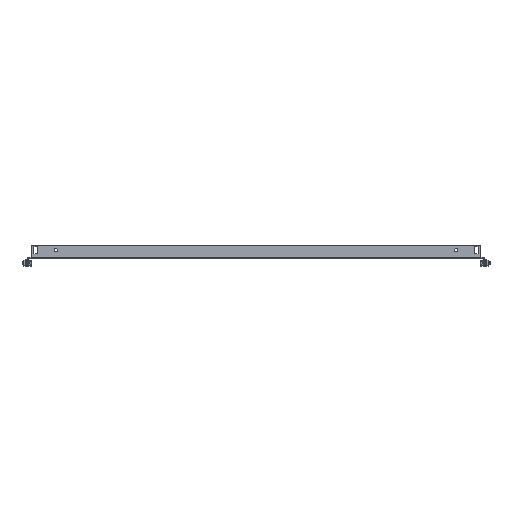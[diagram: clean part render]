
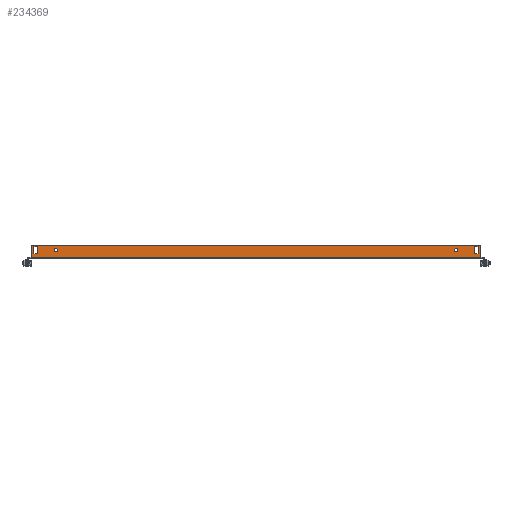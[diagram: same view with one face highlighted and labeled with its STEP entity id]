
A CAD part, front view. The second image highlights one B-rep face of the part: STEP entity #234369.
In plain terms, the highlighted planar face has unit normal (0, -1, 0).
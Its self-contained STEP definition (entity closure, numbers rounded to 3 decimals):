
#216310 = VERTEX_POINT('',#216311);
#216311 = CARTESIAN_POINT('',(442.,-484.5,0.));
#216317 = EDGE_CURVE('',#216318,#216310,#216320,.T.);
#216318 = VERTEX_POINT('',#216319);
#216319 = CARTESIAN_POINT('',(-442.,-484.5,0.));
#216320 = LINE('',#216321,#216322);
#216321 = CARTESIAN_POINT('',(-442.,-484.5,0.));
#216322 = VECTOR('',#216323,1.);
#216323 = DIRECTION('',(1.,-0.,-0.));
#234248 = VERTEX_POINT('',#234249);
#234249 = CARTESIAN_POINT('',(-442.,-484.5,2.6));
#234264 = EDGE_CURVE('',#234248,#216318,#234265,.T.);
#234265 = LINE('',#234266,#234267);
#234266 = CARTESIAN_POINT('',(-442.,-484.5,2.6));
#234267 = VECTOR('',#234268,1.);
#234268 = DIRECTION('',(0.,0.,-1.));
#234288 = VERTEX_POINT('',#234289);
#234289 = CARTESIAN_POINT('',(442.,-484.5,2.6));
#234295 = EDGE_CURVE('',#234288,#216310,#234296,.T.);
#234296 = LINE('',#234297,#234298);
#234297 = CARTESIAN_POINT('',(442.,-484.5,2.));
#234298 = VECTOR('',#234299,1.);
#234299 = DIRECTION('',(-0.,0.,-1.));
#234321 = VERTEX_POINT('',#234322);
#234322 = CARTESIAN_POINT('',(442.,-484.5,26.));
#234328 = EDGE_CURVE('',#234288,#234321,#234329,.T.);
#234329 = LINE('',#234330,#234331);
#234330 = CARTESIAN_POINT('',(442.,-484.5,26.));
#234331 = VECTOR('',#234332,1.);
#234332 = DIRECTION('',(-0.,0.,1.));
#234343 = EDGE_CURVE('',#234344,#234248,#234346,.T.);
#234344 = VERTEX_POINT('',#234345);
#234345 = CARTESIAN_POINT('',(-442.,-484.5,26.));
#234346 = LINE('',#234347,#234348);
#234347 = CARTESIAN_POINT('',(-442.,-484.5,2.));
#234348 = VECTOR('',#234349,1.);
#234349 = DIRECTION('',(-0.,0.,-1.));
#234369 = ADVANCED_FACE('',(#234370,#234404,#234415,#234426,#234460),
  #234473,.F.);
#234370 = FACE_BOUND('',#234371,.T.);
#234371 = EDGE_LOOP('',(#234372,#234382,#234390,#234398));
#234372 = ORIENTED_EDGE('',*,*,#234373,.F.);
#234373 = EDGE_CURVE('',#234374,#234376,#234378,.T.);
#234374 = VERTEX_POINT('',#234375);
#234375 = CARTESIAN_POINT('',(436.5,-484.5,9.));
#234376 = VERTEX_POINT('',#234377);
#234377 = CARTESIAN_POINT('',(436.5,-484.5,23.));
#234378 = LINE('',#234379,#234380);
#234379 = CARTESIAN_POINT('',(436.5,-484.5,23.));
#234380 = VECTOR('',#234381,1.);
#234381 = DIRECTION('',(-0.,-0.,1.));
#234382 = ORIENTED_EDGE('',*,*,#234383,.F.);
#234383 = EDGE_CURVE('',#234384,#234374,#234386,.T.);
#234384 = VERTEX_POINT('',#234385);
#234385 = CARTESIAN_POINT('',(429.5,-484.5,9.));
#234386 = LINE('',#234387,#234388);
#234387 = CARTESIAN_POINT('',(436.5,-484.5,9.));
#234388 = VECTOR('',#234389,1.);
#234389 = DIRECTION('',(1.,-0.,-0.));
#234390 = ORIENTED_EDGE('',*,*,#234391,.F.);
#234391 = EDGE_CURVE('',#234392,#234384,#234394,.T.);
#234392 = VERTEX_POINT('',#234393);
#234393 = CARTESIAN_POINT('',(429.5,-484.5,23.));
#234394 = LINE('',#234395,#234396);
#234395 = CARTESIAN_POINT('',(429.5,-484.5,9.));
#234396 = VECTOR('',#234397,1.);
#234397 = DIRECTION('',(-0.,-0.,-1.));
#234398 = ORIENTED_EDGE('',*,*,#234399,.F.);
#234399 = EDGE_CURVE('',#234376,#234392,#234400,.T.);
#234400 = LINE('',#234401,#234402);
#234401 = CARTESIAN_POINT('',(429.5,-484.5,23.));
#234402 = VECTOR('',#234403,1.);
#234403 = DIRECTION('',(-1.,-0.,-0.));
#234404 = FACE_BOUND('',#234405,.T.);
#234405 = EDGE_LOOP('',(#234406));
#234406 = ORIENTED_EDGE('',*,*,#234407,.F.);
#234407 = EDGE_CURVE('',#234408,#234408,#234410,.T.);
#234408 = VERTEX_POINT('',#234409);
#234409 = CARTESIAN_POINT('',(393.5,-484.5,19.5));
#234410 = CIRCLE('',#234411,3.5);
#234411 = AXIS2_PLACEMENT_3D('',#234412,#234413,#234414);
#234412 = CARTESIAN_POINT('',(393.5,-484.5,16.));
#234413 = DIRECTION('',(0.,-1.,0.));
#234414 = DIRECTION('',(0.,0.,1.));
#234415 = FACE_BOUND('',#234416,.T.);
#234416 = EDGE_LOOP('',(#234417));
#234417 = ORIENTED_EDGE('',*,*,#234418,.F.);
#234418 = EDGE_CURVE('',#234419,#234419,#234421,.T.);
#234419 = VERTEX_POINT('',#234420);
#234420 = CARTESIAN_POINT('',(-393.5,-484.5,12.5));
#234421 = CIRCLE('',#234422,3.5);
#234422 = AXIS2_PLACEMENT_3D('',#234423,#234424,#234425);
#234423 = CARTESIAN_POINT('',(-393.5,-484.5,16.));
#234424 = DIRECTION('',(0.,-1.,0.));
#234425 = DIRECTION('',(0.,0.,-1.));
#234426 = FACE_BOUND('',#234427,.T.);
#234427 = EDGE_LOOP('',(#234428,#234438,#234446,#234454));
#234428 = ORIENTED_EDGE('',*,*,#234429,.F.);
#234429 = EDGE_CURVE('',#234430,#234432,#234434,.T.);
#234430 = VERTEX_POINT('',#234431);
#234431 = CARTESIAN_POINT('',(-436.5,-484.5,23.));
#234432 = VERTEX_POINT('',#234433);
#234433 = CARTESIAN_POINT('',(-436.5,-484.5,9.));
#234434 = LINE('',#234435,#234436);
#234435 = CARTESIAN_POINT('',(-436.5,-484.5,9.));
#234436 = VECTOR('',#234437,1.);
#234437 = DIRECTION('',(-0.,-0.,-1.));
#234438 = ORIENTED_EDGE('',*,*,#234439,.F.);
#234439 = EDGE_CURVE('',#234440,#234430,#234442,.T.);
#234440 = VERTEX_POINT('',#234441);
#234441 = CARTESIAN_POINT('',(-429.5,-484.5,23.));
#234442 = LINE('',#234443,#234444);
#234443 = CARTESIAN_POINT('',(-436.5,-484.5,23.));
#234444 = VECTOR('',#234445,1.);
#234445 = DIRECTION('',(-1.,-0.,-0.));
#234446 = ORIENTED_EDGE('',*,*,#234447,.F.);
#234447 = EDGE_CURVE('',#234448,#234440,#234450,.T.);
#234448 = VERTEX_POINT('',#234449);
#234449 = CARTESIAN_POINT('',(-429.5,-484.5,9.));
#234450 = LINE('',#234451,#234452);
#234451 = CARTESIAN_POINT('',(-429.5,-484.5,23.));
#234452 = VECTOR('',#234453,1.);
#234453 = DIRECTION('',(-0.,-0.,1.));
#234454 = ORIENTED_EDGE('',*,*,#234455,.F.);
#234455 = EDGE_CURVE('',#234432,#234448,#234456,.T.);
#234456 = LINE('',#234457,#234458);
#234457 = CARTESIAN_POINT('',(-429.5,-484.5,9.));
#234458 = VECTOR('',#234459,1.);
#234459 = DIRECTION('',(1.,-0.,-0.));
#234460 = FACE_BOUND('',#234461,.T.);
#234461 = EDGE_LOOP('',(#234462,#234463,#234464,#234465,#234466,#234467)
  );
#234462 = ORIENTED_EDGE('',*,*,#234343,.T.);
#234463 = ORIENTED_EDGE('',*,*,#234264,.T.);
#234464 = ORIENTED_EDGE('',*,*,#216317,.T.);
#234465 = ORIENTED_EDGE('',*,*,#234295,.F.);
#234466 = ORIENTED_EDGE('',*,*,#234328,.T.);
#234467 = ORIENTED_EDGE('',*,*,#234468,.T.);
#234468 = EDGE_CURVE('',#234321,#234344,#234469,.T.);
#234469 = LINE('',#234470,#234471);
#234470 = CARTESIAN_POINT('',(-442.,-484.5,26.));
#234471 = VECTOR('',#234472,1.);
#234472 = DIRECTION('',(-1.,-0.,-0.));
#234473 = PLANE('',#234474);
#234474 = AXIS2_PLACEMENT_3D('',#234475,#234476,#234477);
#234475 = CARTESIAN_POINT('',(442.,-484.5,2.));
#234476 = DIRECTION('',(-0.,1.,0.));
#234477 = DIRECTION('',(0.,0.,1.));
